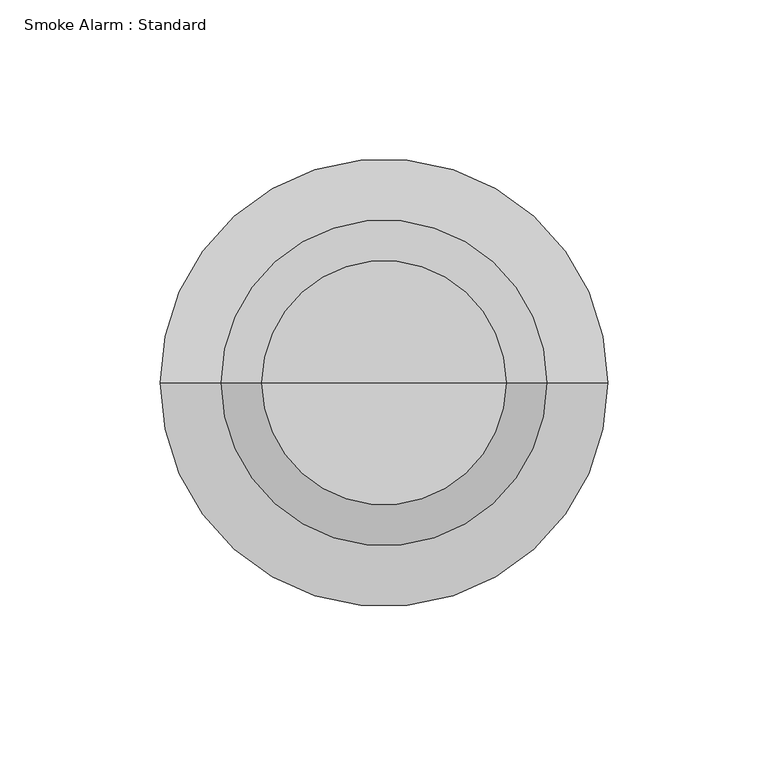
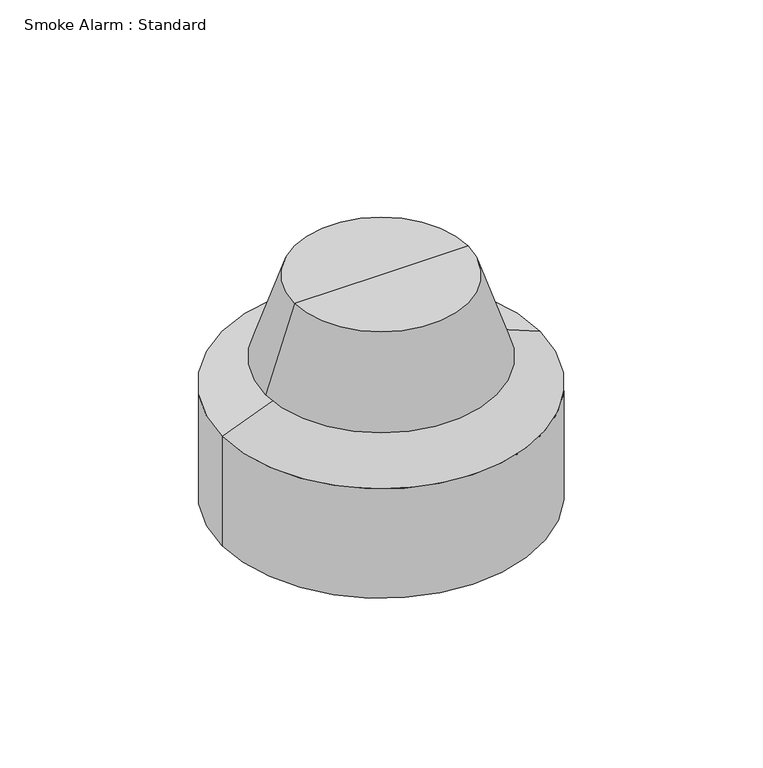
"""IFC4 building model written with IfcOpenShell, lengths in millimetres: alarm geometry, Smoke Alarm : Standard."""

from ifc_helpers import new_model, si_unit, frame, origin, place, context, project, spatial, polyline, circle_curve, source, transform, mapped, element, save
from ifc_brep_helpers import plane_surface, cylinder_surface, revolved_surface, advanced_brep


def smoke_alarm_standard_44dbcd6f(model_context):
    return source(origin(), model_context, "Body", "AdvancedBrep", [
        advanced_brep(
        [(0.0, 0.0, 101.6), (38.1, 0.0, 101.6), (-38.1, 0.0, 101.6), (-69.9, 0.0, 0.0), (69.9, 0.0, 0.0), (0.0, 0.0, 0.0), (-69.9, 0.0, 50.8), (69.9, 0.0, 50.8), (-38.1, 0.0, 63.5), (38.1, 0.0, 63.5), (-50.8, 0.0, 63.5), (50.8, 0.0, 63.5)],
        [
            (0, 1),
            (1, 2, circle_curve(frame((0.0, 0.0, 101.6), z_axis=(0.0, 0.0, 1.0), x_axis=(1.0, 0.0, 0.0)), 38.1)),
            (2, 0),
            (2, 1, circle_curve(frame((0.0, 0.0, 101.6), z_axis=(0.0, 0.0, 1.0), x_axis=(1.0, 0.0, 0.0)), 38.1)),
            (3, 4, circle_curve(frame((0.0, 0.0, 0.0), z_axis=(0.0, 0.0, -1.0), x_axis=(1.0, 0.0, 0.0)), 69.9)),
            (4, 5),
            (5, 3),
            (4, 3, circle_curve(frame((0.0, 0.0, 0.0), z_axis=(0.0, 0.0, -1.0), x_axis=(1.0, 0.0, 0.0)), 69.9)),
            (6, 7, circle_curve(frame((0.0, 0.0, 50.8), z_axis=(0.0, 0.0, -1.0), x_axis=(1.0, 0.0, 0.0)), 69.9)),
            (7, 4),
            (3, 6),
            (7, 6, circle_curve(frame((0.0, 0.0, 50.8), z_axis=(0.0, 0.0, -1.0), x_axis=(1.0, 0.0, 0.0)), 69.9)),
            (8, 9, circle_curve(frame((0.0, 0.0, 63.5), z_axis=(0.0, 0.0, -1.0), x_axis=(1.0, 0.0, 0.0)), 38.1)),
            (9, 7),
            (6, 8),
            (9, 8, circle_curve(frame((0.0, 0.0, 63.5), z_axis=(0.0, 0.0, -1.0), x_axis=(1.0, 0.0, 0.0)), 38.1)),
            (10, 11, circle_curve(frame((0.0, 0.0, 63.5), z_axis=(0.0, 0.0, -1.0), x_axis=(1.0, 0.0, 0.0)), 50.8)),
            (11, 9),
            (8, 10),
            (11, 10, circle_curve(frame((0.0, 0.0, 63.5), z_axis=(0.0, 0.0, -1.0), x_axis=(1.0, 0.0, 0.0)), 50.8)),
            (1, 11),
            (10, 2),
        ],
        [
            plane_surface(frame((0.0, 0.0, 101.6), z_axis=(0.0, 0.0, 1.0), x_axis=(1.0, 0.0, 0.0))),
            plane_surface(frame((0.0, 0.0, 0.0), z_axis=(0.0, 0.0, -1.0), x_axis=(1.0, 0.0, 0.0))),
            cylinder_surface(frame((0.0, 0.0, 31.75), z_axis=(0.0, 0.0, 1.0), x_axis=(1.0, 0.0, 0.0)), 69.9),
            revolved_surface(polyline([(69.9, 0.0, 50.8), (38.1, 0.0, 63.5)]), (0.0, 0.0, 31.75), (0.0, 0.0, 1.0)),
            plane_surface(frame((0.0, 0.0, 63.5), z_axis=(0.0, 0.0, -1.0), x_axis=(1.0, 0.0, 0.0))),
            revolved_surface(polyline([(50.8, 0.0, 63.5), (38.1, 0.0, 101.6)]), (0.0, 0.0, 31.75), (0.0, 0.0, 1.0)),
        ],
        [
            (0, [[1, 2, 3]]),
            (0, [[-3, 4, -1]]),
            (1, [[5, 6, 7]]),
            (1, [[8, -7, -6]]),
            (2, [[9, 10, -5, 11]]),
            (2, [[12, -11, -8, -10]]),
            (3, [[13, 14, -9, 15]]),
            (3, [[16, -15, -12, -14]]),
            (4, [[17, 18, -13, 19]]),
            (4, [[20, -19, -16, -18]]),
            (5, [[-2, 21, -17, 22]]),
            (5, [[-4, -22, -20, -21]]),
        ],
    ),
    ])


if __name__ == "__main__":
    model = new_model("IFC4")
    model_context = context("Model", 3, world=origin())
    ifc_project = project(units=[si_unit("LENGTHUNIT", "METRE", prefix="MILLI")], contexts=[model_context])
    site = spatial("IfcSite", under=ifc_project)
    building = spatial("IfcBuilding", under=site)
    placement = place(None, origin())
    smoke_alarm_standard_shape = smoke_alarm_standard_44dbcd6f(model_context)
    element("IfcAlarm", 1, ObjectType="Smoke Alarm : Standard", at=placement, inside=building, context=model_context, shape_type="MappedRepresentation", body=[
        mapped(smoke_alarm_standard_shape, transform((0.0, 0.0, 0.0), x_axis=(1.0, 0.0, 0.0), y_axis=(0.0, 1.0, 0.0), z_axis=(0.0, 0.0, 1.0))),
    ])
    save(model, "model.ifc")
